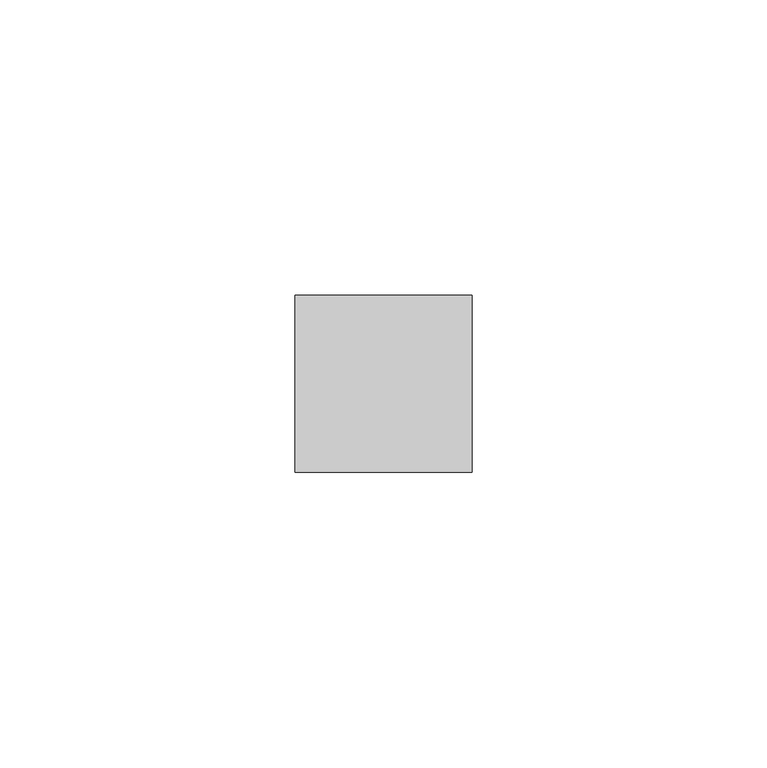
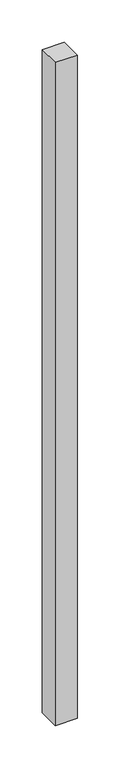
"""IFC4 building model written with IfcOpenShell, lengths in millimetres: member geometry, 矩形竖梃 : 30mm 正方形."""

from ifc_helpers import new_model, si_unit, frame, origin, place, context, project, spatial, polyline, outline, extrude, source, transform, mapped, element, save


def member_e371c03a(model_context):
    return source(origin(), model_context, "Body", "SweptSolid", [
        extrude(outline(polyline([(0.0, 15.0), (0.0, -15.0), (-30.0, -15.0), (-30.0, 15.0), (0.0, 15.0)])), frame((0.0, 0.0, -955.0), z_axis=(0.0, 0.0, 1.0), x_axis=(1.0, 0.0, 0.0)), (0.0, 0.0, 1.0), 955.0),
    ])


if __name__ == "__main__":
    model = new_model("IFC4")
    model_context = context("Model", 3, world=origin())
    ifc_project = project(units=[si_unit("LENGTHUNIT", "METRE", prefix="MILLI")], contexts=[model_context])
    site = spatial("IfcSite", under=ifc_project)
    building = spatial("IfcBuilding", under=site)
    placement = place(None, origin())
    member_shape = member_e371c03a(model_context)
    element("IfcMember", 1, ObjectType="矩形竖梃 : 30mm 正方形", at=placement, inside=building, context=model_context, shape_type="MappedRepresentation", body=[
        mapped(member_shape, transform((0.0, 0.0, 0.0), x_axis=(1.0, 0.0, 0.0), y_axis=(0.0, 1.0, 0.0), z_axis=(0.0, 0.0, 1.0))),
    ])
    save(model, "model.ifc")
